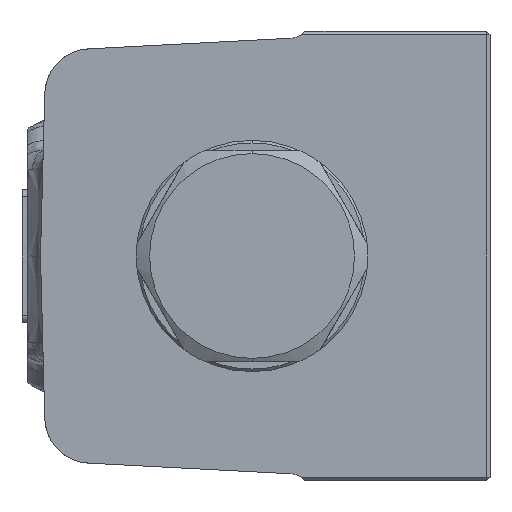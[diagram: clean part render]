
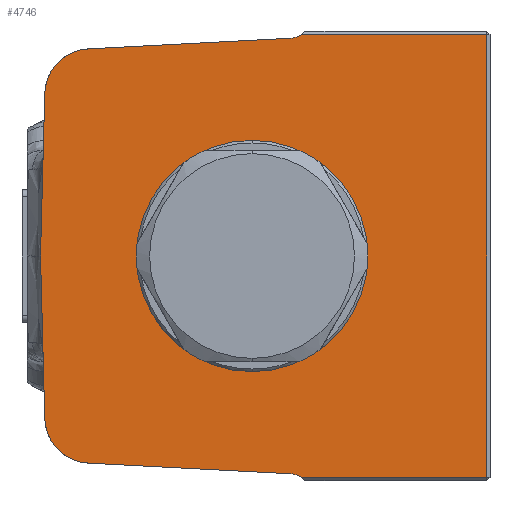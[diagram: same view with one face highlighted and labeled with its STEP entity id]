
A CAD part, left-side view. The second image highlights one B-rep face of the part: STEP entity #4746.
In plain terms, the highlighted planar face has unit normal (-1, 0, 0).
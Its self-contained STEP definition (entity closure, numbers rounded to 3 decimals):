
#413 = EDGE_CURVE ( 'NONE', #4563, #10914, #16064, .T. ) ;
#875 = DIRECTION ( 'NONE',  ( 0., 0., 1. ) ) ;
#920 = EDGE_LOOP ( 'NONE', ( #6519, #5760 ) ) ;
#1013 = DIRECTION ( 'NONE',  ( 1., 0., 0. ) ) ;
#1625 = EDGE_CURVE ( 'NONE', #9575, #10008, #15223, .T. ) ;
#1644 = AXIS2_PLACEMENT_3D ( 'NONE', #17089, #23225, #23494 ) ;
#1648 = DIRECTION ( 'NONE',  ( 0., 1., 0. ) ) ;
#1874 = VERTEX_POINT ( 'NONE', #10976 ) ;
#1975 = CARTESIAN_POINT ( 'NONE',  ( -46.6, -36., -33.5 ) ) ;
#2121 = VERTEX_POINT ( 'NONE', #7771 ) ;
#2277 = CARTESIAN_POINT ( 'NONE',  ( -46.6, 0., 0. ) ) ;
#2538 = EDGE_CURVE ( 'NONE', #10008, #21674, #23920, .T. ) ;
#2571 = EDGE_CURVE ( 'NONE', #2806, #22870, #15231, .T. ) ;
#2586 = CARTESIAN_POINT ( 'NONE',  ( -46.6, -7.444, 33.5 ) ) ;
#2617 = AXIS2_PLACEMENT_3D ( 'NONE', #14260, #8004, #22561 ) ;
#2706 = CARTESIAN_POINT ( 'NONE',  ( -46.6, 24.726, 31.337 ) ) ;
#2806 = VERTEX_POINT ( 'NONE', #7441 ) ;
#3006 = ORIENTED_EDGE ( 'NONE', *, *, #1625, .T. ) ;
#3388 = EDGE_CURVE ( 'NONE', #2121, #16248, #17890, .T. ) ;
#3573 = CARTESIAN_POINT ( 'NONE',  ( -46.6, -7.444, -33.5 ) ) ;
#3716 = CIRCLE ( 'NONE', #20209, 7. ) ;
#3762 = AXIS2_PLACEMENT_3D ( 'NONE', #25800, #1013, #19661 ) ;
#4368 = VECTOR ( 'NONE', #22787, 1000. ) ;
#4563 = VERTEX_POINT ( 'NONE', #2706 ) ;
#4746 = ADVANCED_FACE ( 'NONE', ( #19258, #22971 ), #10982, .T. ) ;
#4867 = AXIS2_PLACEMENT_3D ( 'NONE', #2277, #22840, #6631 ) ;
#4911 = VECTOR ( 'NONE', #22124, 1000. ) ;
#5538 = CARTESIAN_POINT ( 'NONE',  ( -46.6, 31.978, 0.837 ) ) ;
#5677 = ORIENTED_EDGE ( 'NONE', *, *, #25139, .T. ) ;
#5735 = CARTESIAN_POINT ( 'NONE',  ( -46.6, 1.706, 32.544 ) ) ;
#5760 = ORIENTED_EDGE ( 'NONE', *, *, #2571, .F. ) ;
#5830 = DIRECTION ( 'NONE',  ( -1., 0., 0. ) ) ;
#6007 = DIRECTION ( 'NONE',  ( 0., -0.999, 0.052 ) ) ;
#6101 = AXIS2_PLACEMENT_3D ( 'NONE', #24472, #5830, #14122 ) ;
#6202 = ORIENTED_EDGE ( 'NONE', *, *, #413, .F. ) ;
#6519 = ORIENTED_EDGE ( 'NONE', *, *, #7604, .F. ) ;
#6631 = DIRECTION ( 'NONE',  ( 0., -1., 0. ) ) ;
#6771 = VECTOR ( 'NONE', #7194, 1000. ) ;
#7194 = DIRECTION ( 'NONE',  ( 0., -0.999, -0.052 ) ) ;
#7441 = CARTESIAN_POINT ( 'NONE',  ( -46.6, 16., 0. ) ) ;
#7604 = EDGE_CURVE ( 'NONE', #22870, #2806, #23466, .T. ) ;
#7771 = CARTESIAN_POINT ( 'NONE',  ( -46.6, 32., 0. ) ) ;
#8004 = DIRECTION ( 'NONE',  ( 1., 0., 0. ) ) ;
#8259 = DIRECTION ( 'NONE',  ( 0., 0., 1. ) ) ;
#8312 = CARTESIAN_POINT ( 'NONE',  ( -46.6, 31.978, -0.837 ) ) ;
#8870 = ORIENTED_EDGE ( 'NONE', *, *, #2538, .T. ) ;
#9252 = ORIENTED_EDGE ( 'NONE', *, *, #3388, .F. ) ;
#9575 = VERTEX_POINT ( 'NONE', #11518 ) ;
#9790 = CARTESIAN_POINT ( 'NONE',  ( -46.6, -35.5, -33.5 ) ) ;
#10008 = VERTEX_POINT ( 'NONE', #11410 ) ;
#10041 = EDGE_CURVE ( 'NONE', #16215, #10914, #24139, .T. ) ;
#10237 = LINE ( 'NONE', #20298, #10675 ) ;
#10675 = VECTOR ( 'NONE', #1648, 1000. ) ;
#10914 = VERTEX_POINT ( 'NONE', #24448 ) ;
#10976 = CARTESIAN_POINT ( 'NONE',  ( -46.6, 31.358, -24.53 ) ) ;
#10982 = PLANE ( 'NONE',  #1644 ) ;
#11410 = CARTESIAN_POINT ( 'NONE',  ( -46.6, -5.85, -32.94 ) ) ;
#11518 = CARTESIAN_POINT ( 'NONE',  ( -46.6, 24.726, -31.337 ) ) ;
#12847 = VECTOR ( 'NONE', #26777, 1000. ) ;
#12866 = CARTESIAN_POINT ( 'NONE',  ( -46.6, 24.36, 24.347 ) ) ;
#14074 = LINE ( 'NONE', #20751, #4368 ) ;
#14122 = DIRECTION ( 'NONE',  ( 0., -1., 0. ) ) ;
#14230 = EDGE_CURVE ( 'NONE', #25681, #16215, #10237, .T. ) ;
#14260 = CARTESIAN_POINT ( 'NONE',  ( -46.6, -5.693, -35.936 ) ) ;
#15223 = LINE ( 'NONE', #21886, #6771 ) ;
#15231 = CIRCLE ( 'NONE', #6101, 16. ) ;
#15485 = CIRCLE ( 'NONE', #3762, 7. ) ;
#15729 = CARTESIAN_POINT ( 'NONE',  ( -46.6, -16., 0. ) ) ;
#16064 = LINE ( 'NONE', #5735, #23563 ) ;
#16215 = VERTEX_POINT ( 'NONE', #2586 ) ;
#16248 = VERTEX_POINT ( 'NONE', #22170 ) ;
#16466 = ORIENTED_EDGE ( 'NONE', *, *, #24126, .T. ) ;
#16486 = DIRECTION ( 'NONE',  ( 0., -0.026, -1. ) ) ;
#17089 = CARTESIAN_POINT ( 'NONE',  ( -46.6, -36., -34. ) ) ;
#17157 = VERTEX_POINT ( 'NONE', #9790 ) ;
#17890 = LINE ( 'NONE', #5538, #4911 ) ;
#18412 = EDGE_CURVE ( 'NONE', #4563, #16248, #3716, .T. ) ;
#18724 = ORIENTED_EDGE ( 'NONE', *, *, #14230, .T. ) ;
#18864 = VECTOR ( 'NONE', #16486, 1000. ) ;
#19258 = FACE_OUTER_BOUND ( 'NONE', #21509, .T. ) ;
#19661 = DIRECTION ( 'NONE',  ( 0., 0., 1. ) ) ;
#19900 = ORIENTED_EDGE ( 'NONE', *, *, #25782, .T. ) ;
#20209 = AXIS2_PLACEMENT_3D ( 'NONE', #12866, #23472, #875 ) ;
#20298 = CARTESIAN_POINT ( 'NONE',  ( -46.6, -36., 33.5 ) ) ;
#20408 = ORIENTED_EDGE ( 'NONE', *, *, #26810, .F. ) ;
#20623 = LINE ( 'NONE', #1975, #12847 ) ;
#20751 = CARTESIAN_POINT ( 'NONE',  ( -46.6, -35.5, -34. ) ) ;
#21089 = AXIS2_PLACEMENT_3D ( 'NONE', #26507, #26640, #8259 ) ;
#21509 = EDGE_LOOP ( 'NONE', ( #8870, #19900, #16466, #18724, #24463, #6202, #23487, #9252, #5677, #20408, #3006 ) ) ;
#21674 = VERTEX_POINT ( 'NONE', #3573 ) ;
#21886 = CARTESIAN_POINT ( 'NONE',  ( -46.6, 1.706, -32.544 ) ) ;
#22124 = DIRECTION ( 'NONE',  ( 0., -0.026, 1. ) ) ;
#22170 = CARTESIAN_POINT ( 'NONE',  ( -46.6, 31.358, 24.53 ) ) ;
#22561 = DIRECTION ( 'NONE',  ( 0., 0., 1. ) ) ;
#22787 = DIRECTION ( 'NONE',  ( 0., 0., 1. ) ) ;
#22840 = DIRECTION ( 'NONE',  ( -1., 0., 0. ) ) ;
#22870 = VERTEX_POINT ( 'NONE', #15729 ) ;
#22971 = FACE_BOUND ( 'NONE', #920, .T. ) ;
#23225 = DIRECTION ( 'NONE',  ( -1., 0., 0. ) ) ;
#23269 = LINE ( 'NONE', #8312, #18864 ) ;
#23466 = CIRCLE ( 'NONE', #4867, 16. ) ;
#23472 = DIRECTION ( 'NONE',  ( -1., 0., 0. ) ) ;
#23487 = ORIENTED_EDGE ( 'NONE', *, *, #18412, .T. ) ;
#23494 = DIRECTION ( 'NONE',  ( 0., 0., 1. ) ) ;
#23563 = VECTOR ( 'NONE', #6007, 1000. ) ;
#23920 = CIRCLE ( 'NONE', #2617, 3. ) ;
#24126 = EDGE_CURVE ( 'NONE', #17157, #25681, #14074, .T. ) ;
#24139 = CIRCLE ( 'NONE', #21089, 3. ) ;
#24448 = CARTESIAN_POINT ( 'NONE',  ( -46.6, -5.85, 32.94 ) ) ;
#24463 = ORIENTED_EDGE ( 'NONE', *, *, #10041, .T. ) ;
#24472 = CARTESIAN_POINT ( 'NONE',  ( -46.6, 0., 0. ) ) ;
#25139 = EDGE_CURVE ( 'NONE', #2121, #1874, #23269, .T. ) ;
#25681 = VERTEX_POINT ( 'NONE', #26622 ) ;
#25782 = EDGE_CURVE ( 'NONE', #21674, #17157, #20623, .T. ) ;
#25800 = CARTESIAN_POINT ( 'NONE',  ( -46.6, 24.36, -24.347 ) ) ;
#26507 = CARTESIAN_POINT ( 'NONE',  ( -46.6, -5.693, 35.936 ) ) ;
#26622 = CARTESIAN_POINT ( 'NONE',  ( -46.6, -35.5, 33.5 ) ) ;
#26640 = DIRECTION ( 'NONE',  ( 1., 0., 0. ) ) ;
#26777 = DIRECTION ( 'NONE',  ( 0., -1., 0. ) ) ;
#26810 = EDGE_CURVE ( 'NONE', #9575, #1874, #15485, .T. ) ;
